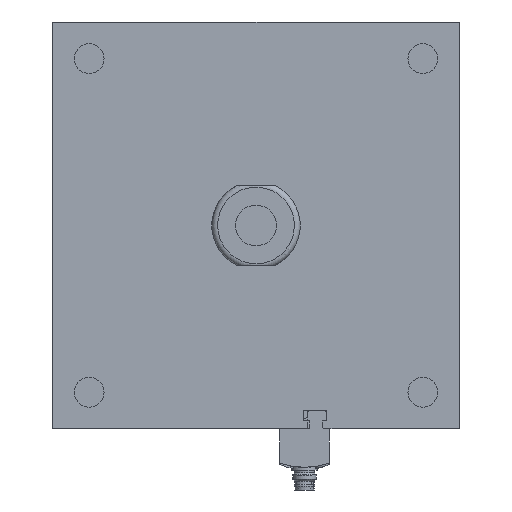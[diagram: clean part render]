
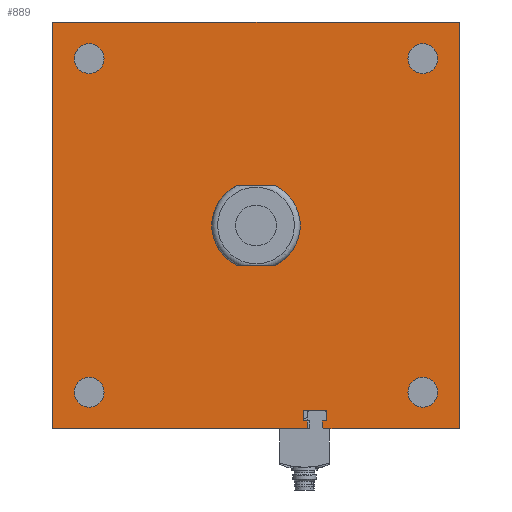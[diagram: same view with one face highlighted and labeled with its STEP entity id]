
A CAD part, front view. The second image highlights one B-rep face of the part: STEP entity #889.
In plain terms, the highlighted planar face has unit normal (0, -1, 0).
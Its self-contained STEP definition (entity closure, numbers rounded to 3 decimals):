
#99=CARTESIAN_POINT('',(69.0,0.0,-69.0));
#100=VERTEX_POINT('',#99);
#107=CARTESIAN_POINT('',(23.05,0.0,-69.0));
#108=VERTEX_POINT('',#107);
#109=CARTESIAN_POINT('',(69.0,0.0,-69.0));
#110=DIRECTION('',(-1.0,0.0,0.0));
#111=VECTOR('',#110,45.95);
#112=LINE('',#109,#111);
#113=EDGE_CURVE('',#100,#108,#112,.T.);
#181=CARTESIAN_POINT('',(22.55,0.0,-68.5));
#182=VERTEX_POINT('',#181);
#183=CARTESIAN_POINT('',(23.05,0.0,-69.0));
#184=DIRECTION('',(-0.707,0.0,0.707));
#185=VECTOR('',#184,0.707);
#186=LINE('',#183,#185);
#187=EDGE_CURVE('',#108,#182,#186,.T.);
#243=CARTESIAN_POINT('',(22.55,0.0,-66.3));
#244=VERTEX_POINT('',#243);
#245=CARTESIAN_POINT('',(22.55,0.0,-66.3));
#246=DIRECTION('',(0.0,0.0,-1.0));
#247=VECTOR('',#246,2.2);
#248=LINE('',#245,#247);
#249=EDGE_CURVE('',#244,#182,#248,.T.);
#306=CARTESIAN_POINT('',(22.75,0.0,-66.1));
#307=VERTEX_POINT('',#306);
#308=CARTESIAN_POINT('',(22.75,0.0,-66.3));
#309=DIRECTION('',(0.0,1.0,0.0));
#310=DIRECTION('',(-0.707,0.0,0.707));
#311=AXIS2_PLACEMENT_3D('',#308,#309,#310);
#312=CIRCLE('',#311,0.2);
#313=EDGE_CURVE('',#244,#307,#312,.T.);
#385=CARTESIAN_POINT('',(24.,0.0,-66.1));
#386=VERTEX_POINT('',#385);
#387=CARTESIAN_POINT('',(24.,0.0,-66.1));
#388=DIRECTION('',(-1.0,0.0,0.0));
#389=VECTOR('',#388,1.25);
#390=LINE('',#387,#389);
#391=EDGE_CURVE('',#386,#307,#390,.T.);
#596=CARTESIAN_POINT('',(16.95,0.0,-69.0));
#597=VERTEX_POINT('',#596);
#604=CARTESIAN_POINT('',(-69.,0.0,-69.0));
#605=VERTEX_POINT('',#604);
#606=CARTESIAN_POINT('',(16.95,0.0,-69.0));
#607=DIRECTION('',(-1.0,0.0,0.0));
#608=VECTOR('',#607,85.95);
#609=LINE('',#606,#608);
#610=EDGE_CURVE('',#597,#605,#609,.T.);
#644=CARTESIAN_POINT('',(56.569,0.0,-51.516));
#645=VERTEX_POINT('',#644);
#646=CARTESIAN_POINT('',(56.569,0.0,-56.569));
#647=DIRECTION('',(0.0,1.0,0.0));
#648=DIRECTION('',(0.0,0.0,-1.0));
#649=AXIS2_PLACEMENT_3D('',#646,#647,#648);
#650=CIRCLE('',#649,5.053);
#651=EDGE_CURVE('',#645,#645,#650,.T.);
#672=CARTESIAN_POINT('',(-56.569,0.0,-51.516));
#673=VERTEX_POINT('',#672);
#674=CARTESIAN_POINT('',(-56.569,0.0,-56.569));
#675=DIRECTION('',(0.0,1.0,0.0));
#676=DIRECTION('',(0.0,0.0,-1.0));
#677=AXIS2_PLACEMENT_3D('',#674,#675,#676);
#678=CIRCLE('',#677,5.053);
#679=EDGE_CURVE('',#673,#673,#678,.T.);
#700=CARTESIAN_POINT('',(-56.569,0.0,61.622));
#701=VERTEX_POINT('',#700);
#702=CARTESIAN_POINT('',(-56.569,0.0,56.569));
#703=DIRECTION('',(0.0,1.0,0.0));
#704=DIRECTION('',(0.0,0.0,-1.0));
#705=AXIS2_PLACEMENT_3D('',#702,#703,#704);
#706=CIRCLE('',#705,5.053);
#707=EDGE_CURVE('',#701,#701,#706,.T.);
#728=CARTESIAN_POINT('',(56.569,0.0,61.622));
#729=VERTEX_POINT('',#728);
#730=CARTESIAN_POINT('',(56.569,0.0,56.569));
#731=DIRECTION('',(0.0,1.0,0.0));
#732=DIRECTION('',(0.0,0.0,-1.0));
#733=AXIS2_PLACEMENT_3D('',#730,#731,#732);
#734=CIRCLE('',#733,5.053);
#735=EDGE_CURVE('',#729,#729,#734,.T.);
#751=CARTESIAN_POINT('',(0.,0.0,0.0));
#752=DIRECTION('',(0.0,1.0,0.0));
#753=DIRECTION('',(0.0,0.0,-1.0));
#754=AXIS2_PLACEMENT_3D('',#751,#752,#753);
#755=PLANE('',#754);
#756=ORIENTED_EDGE('',*,*,#187,.F.);
#757=ORIENTED_EDGE('',*,*,#113,.F.);
#758=CARTESIAN_POINT('',(69.0,0.0,69.0));
#759=VERTEX_POINT('',#758);
#760=CARTESIAN_POINT('',(69.0,0.0,69.0));
#761=DIRECTION('',(0.0,0.0,-1.0));
#762=VECTOR('',#761,138.0);
#763=LINE('',#760,#762);
#764=EDGE_CURVE('',#759,#100,#763,.T.);
#765=ORIENTED_EDGE('',*,*,#764,.F.);
#766=CARTESIAN_POINT('',(-69.,0.0,69.0));
#767=VERTEX_POINT('',#766);
#768=CARTESIAN_POINT('',(-69.,0.0,69.0));
#769=DIRECTION('',(1.0,0.0,0.0));
#770=VECTOR('',#769,138.0);
#771=LINE('',#768,#770);
#772=EDGE_CURVE('',#767,#759,#771,.T.);
#773=ORIENTED_EDGE('',*,*,#772,.F.);
#774=CARTESIAN_POINT('',(-69.,0.0,-69.0));
#775=DIRECTION('',(0.0,0.0,1.0));
#776=VECTOR('',#775,138.0);
#777=LINE('',#774,#776);
#778=EDGE_CURVE('',#605,#767,#777,.T.);
#779=ORIENTED_EDGE('',*,*,#778,.F.);
#780=ORIENTED_EDGE('',*,*,#610,.F.);
#781=CARTESIAN_POINT('',(17.45,0.0,-68.5));
#782=VERTEX_POINT('',#781);
#783=CARTESIAN_POINT('',(17.45,0.0,-68.5));
#784=DIRECTION('',(-0.707,0.0,-0.707));
#785=VECTOR('',#784,0.707);
#786=LINE('',#783,#785);
#787=EDGE_CURVE('',#782,#597,#786,.T.);
#788=ORIENTED_EDGE('',*,*,#787,.F.);
#789=CARTESIAN_POINT('',(17.45,0.0,-66.3));
#790=VERTEX_POINT('',#789);
#791=CARTESIAN_POINT('',(17.45,0.0,-68.5));
#792=DIRECTION('',(0.0,0.0,1.0));
#793=VECTOR('',#792,2.2);
#794=LINE('',#791,#793);
#795=EDGE_CURVE('',#782,#790,#794,.T.);
#796=ORIENTED_EDGE('',*,*,#795,.T.);
#797=CARTESIAN_POINT('',(17.25,0.0,-66.1));
#798=VERTEX_POINT('',#797);
#799=CARTESIAN_POINT('',(17.25,0.0,-66.3));
#800=DIRECTION('',(0.0,1.0,0.0));
#801=DIRECTION('',(0.707,0.0,0.707));
#802=AXIS2_PLACEMENT_3D('',#799,#800,#801);
#803=CIRCLE('',#802,0.2);
#804=EDGE_CURVE('',#798,#790,#803,.T.);
#805=ORIENTED_EDGE('',*,*,#804,.F.);
#806=CARTESIAN_POINT('',(16.,0.0,-66.1));
#807=VERTEX_POINT('',#806);
#808=CARTESIAN_POINT('',(17.25,0.0,-66.1));
#809=DIRECTION('',(-1.0,0.0,0.0));
#810=VECTOR('',#809,1.25);
#811=LINE('',#808,#810);
#812=EDGE_CURVE('',#798,#807,#811,.T.);
#813=ORIENTED_EDGE('',*,*,#812,.T.);
#814=CARTESIAN_POINT('',(16.,0.0,-62.8));
#815=VERTEX_POINT('',#814);
#816=CARTESIAN_POINT('',(16.,0.0,-66.1));
#817=DIRECTION('',(0.0,0.0,1.0));
#818=VECTOR('',#817,3.3);
#819=LINE('',#816,#818);
#820=EDGE_CURVE('',#807,#815,#819,.T.);
#821=ORIENTED_EDGE('',*,*,#820,.T.);
#822=CARTESIAN_POINT('',(24.,0.0,-62.8));
#823=VERTEX_POINT('',#822);
#824=CARTESIAN_POINT('',(16.,0.0,-62.8));
#825=DIRECTION('',(1.0,0.0,0.0));
#826=VECTOR('',#825,8.0);
#827=LINE('',#824,#826);
#828=EDGE_CURVE('',#815,#823,#827,.T.);
#829=ORIENTED_EDGE('',*,*,#828,.T.);
#830=CARTESIAN_POINT('',(24.,0.0,-62.8));
#831=DIRECTION('',(0.0,0.0,-1.0));
#832=VECTOR('',#831,3.3);
#833=LINE('',#830,#832);
#834=EDGE_CURVE('',#823,#386,#833,.T.);
#835=ORIENTED_EDGE('',*,*,#834,.T.);
#836=ORIENTED_EDGE('',*,*,#391,.T.);
#837=ORIENTED_EDGE('',*,*,#313,.F.);
#838=ORIENTED_EDGE('',*,*,#249,.T.);
#839=EDGE_LOOP('',(#756,#757,#765,#773,#779,#780,#788,#796,#805,#813,#821,#829,#835,#836,#837,#838));
#840=FACE_OUTER_BOUND('',#839,.T.);
#841=ORIENTED_EDGE('',*,*,#735,.T.);
#842=EDGE_LOOP('',(#841));
#843=FACE_BOUND('',#842,.T.);
#844=ORIENTED_EDGE('',*,*,#707,.T.);
#845=EDGE_LOOP('',(#844));
#846=FACE_BOUND('',#845,.T.);
#847=ORIENTED_EDGE('',*,*,#679,.T.);
#848=EDGE_LOOP('',(#847));
#849=FACE_BOUND('',#848,.T.);
#850=ORIENTED_EDGE('',*,*,#651,.T.);
#851=EDGE_LOOP('',(#850));
#852=FACE_BOUND('',#851,.T.);
#853=CARTESIAN_POINT('',(6.538,0.0,13.5));
#854=VERTEX_POINT('',#853);
#855=CARTESIAN_POINT('',(-6.538,0.0,13.5));
#856=VERTEX_POINT('',#855);
#857=CARTESIAN_POINT('',(6.538,0.0,13.5));
#858=DIRECTION('',(-1.0,0.0,0.0));
#859=VECTOR('',#858,13.077);
#860=LINE('',#857,#859);
#861=EDGE_CURVE('',#854,#856,#860,.T.);
#862=ORIENTED_EDGE('',*,*,#861,.F.);
#863=CARTESIAN_POINT('',(6.538,0.0,-13.5));
#864=VERTEX_POINT('',#863);
#865=CARTESIAN_POINT('',(0.,0.0,0.0));
#866=DIRECTION('',(0.0,-1.0,0.0));
#867=DIRECTION('',(0.0,0.0,1.0));
#868=AXIS2_PLACEMENT_3D('',#865,#866,#867);
#869=CIRCLE('',#868,15.0);
#870=EDGE_CURVE('',#864,#854,#869,.T.);
#871=ORIENTED_EDGE('',*,*,#870,.F.);
#872=CARTESIAN_POINT('',(-6.538,0.0,-13.5));
#873=VERTEX_POINT('',#872);
#874=CARTESIAN_POINT('',(-6.538,0.0,-13.5));
#875=DIRECTION('',(1.0,0.0,0.0));
#876=VECTOR('',#875,13.077);
#877=LINE('',#874,#876);
#878=EDGE_CURVE('',#873,#864,#877,.T.);
#879=ORIENTED_EDGE('',*,*,#878,.F.);
#880=CARTESIAN_POINT('',(0.,0.0,0.0));
#881=DIRECTION('',(0.0,-1.0,0.0));
#882=DIRECTION('',(0.0,0.0,1.0));
#883=AXIS2_PLACEMENT_3D('',#880,#881,#882);
#884=CIRCLE('',#883,15.0);
#885=EDGE_CURVE('',#856,#873,#884,.T.);
#886=ORIENTED_EDGE('',*,*,#885,.F.);
#887=EDGE_LOOP('',(#862,#871,#879,#886));
#888=FACE_BOUND('',#887,.T.);
#889=ADVANCED_FACE('',(#840,#843,#846,#849,#852,#888),#755,.F.);
